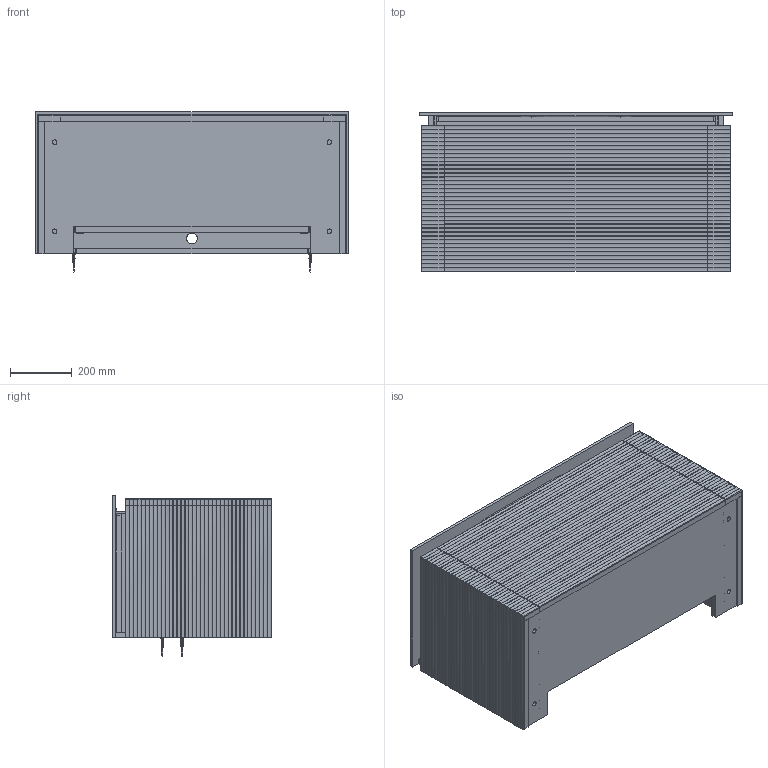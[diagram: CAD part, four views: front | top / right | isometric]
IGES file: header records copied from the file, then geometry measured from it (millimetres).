
Global section: file name: Vanessa Lavabo Dolabı MNTJ,; native system: Autodesk Inventor 2024; preprocessor: unknown; author: pc11; date: 20250328.144518; units: millimetre
Bounding box: 1010 x 513 x 519.85 mm (x, y, z)
Volume: 45211660.1 mm3; surface area: 8558350.6 mm2
Topology: 69 solids, 69 shells, 4430 faces, 11454 edges, 7154 vertices
Faces by surface type: bspline 4430
